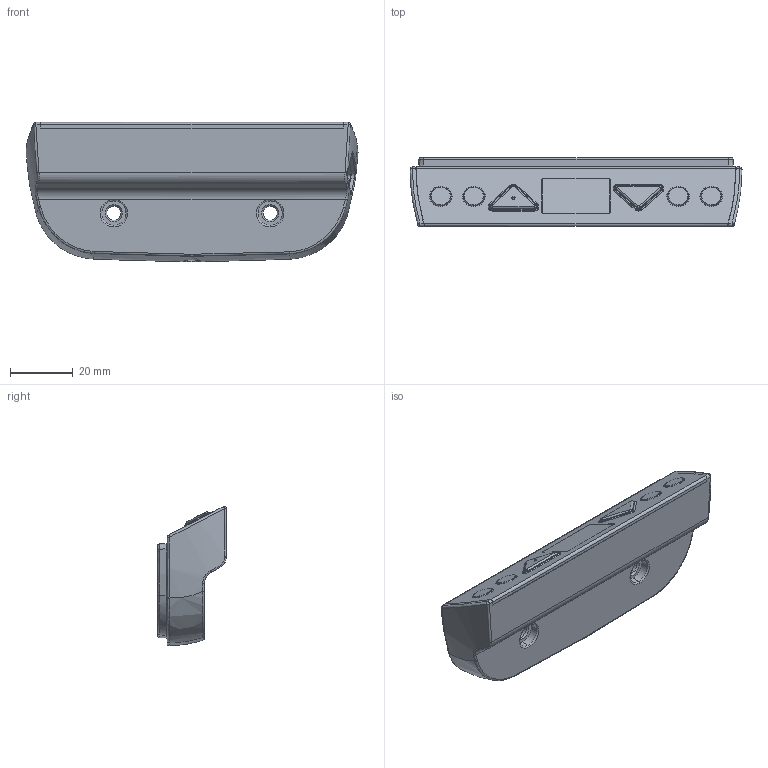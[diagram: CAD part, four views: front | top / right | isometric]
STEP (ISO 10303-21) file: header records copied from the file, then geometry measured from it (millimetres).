
FILE_DESCRIPTION (( 'STEP AP203' ), '1' );
FILE_NAME ('3D_TDH5C.STEP', '2022-09-23T06:50:48', ( '' ), ( '' ), 'SwSTEP 2.0', 'SolidWorks 2015', '' );
FILE_SCHEMA (( 'CONFIG_CONTROL_DESIGN' ));
Length unit declared in the file: inch
Products named in the file (1): 3D_TDH5C
Bounding box: 106.25 x 22 x 44.54 mm (x, y, z)
Volume: 26236.4 mm3; surface area: 32949 mm2
Topology: 5 solids, 5 shells, 1142 faces, 3109 edges, 1973 vertices
Faces by surface type: plane 534, cylinder 352, bspline 135, torus 66, cone 52, sphere 3
Entity records: 43822 total; most frequent: CARTESIAN_POINT 16016, ORIENTED_EDGE 6190, DIRECTION 5335, EDGE_CURVE 3095, VERTEX_POINT 1973, AXIS2_PLACEMENT_3D 1852, LINE 1631, VECTOR 1631
